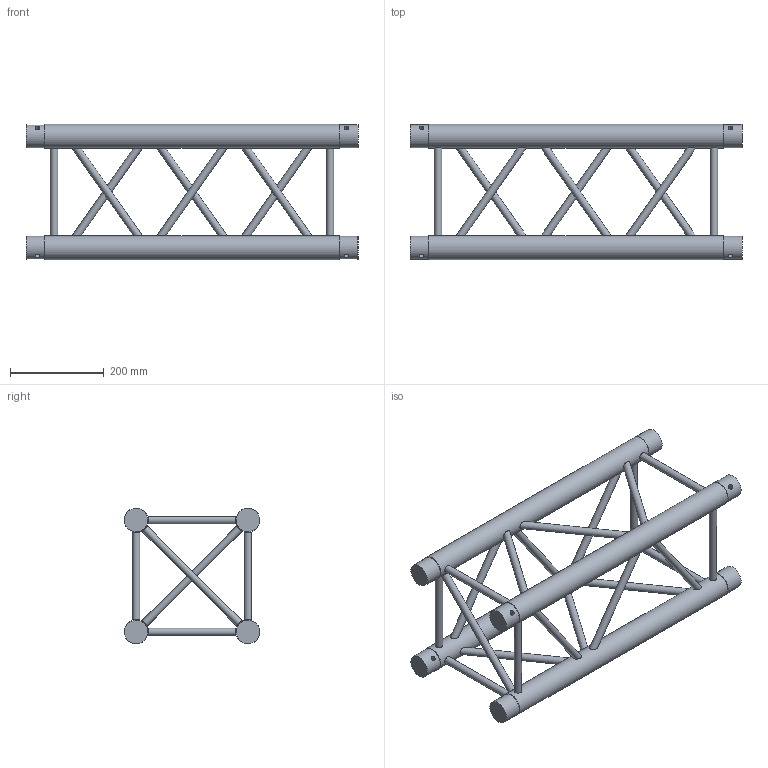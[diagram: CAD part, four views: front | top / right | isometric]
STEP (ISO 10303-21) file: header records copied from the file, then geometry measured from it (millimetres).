
FILE_DESCRIPTION(/* description */ (''),/* implementation_level */ '2;1');
FILE_NAME(/* name */ 'M:\Symbolen\STP\30-er truss\111080123.stp',/* time_stamp */ '2015-01-29T16:05:43+01:00',/* author */ ('Stephan'),/* organization */ (''),/* preprocessor_version */ 'ST-DEVELOPER v15.6',/* originating_system */ 'Autodesk Inventor 2015',/* authorisation */ '');
FILE_SCHEMA (('AUTOMOTIVE_DESIGN { 1 0 10303 214 3 1 1 }'));
Length unit declared in the file: millimetre
Products named in the file (1): 160023698
Bounding box: 710 x 289.98 x 289.98 mm (x, y, z)
Volume: 6639225.3 mm3; surface area: 757673.7 mm2
Topology: 26 solids, 26 shells, 140 faces, 260 edges, 168 vertices
Faces by surface type: plane 80, cylinder 52, cone 8
Full cylindrical faces by diameter (mm): 10 x8, 12 x2, 16 x22, 49.5 x8, 51 x4
Entity records: 3945 total; most frequent: CARTESIAN_POINT 1109, DIRECTION 506, ORIENTED_EDGE 400, AXIS2_PLACEMENT_3D 237, EDGE_LOOP 232, EDGE_CURVE 184, VERTEX_POINT 152, STYLED_ITEM 145
